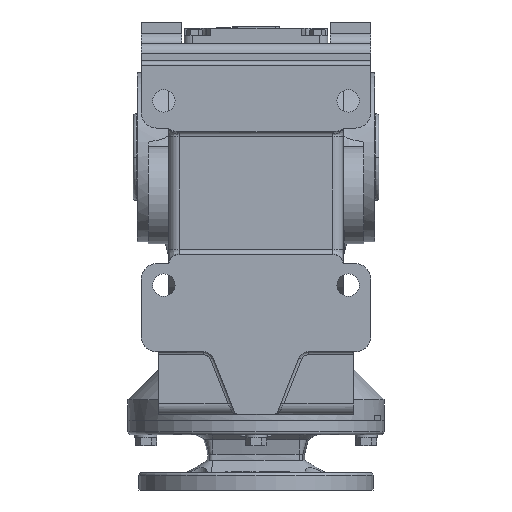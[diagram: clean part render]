
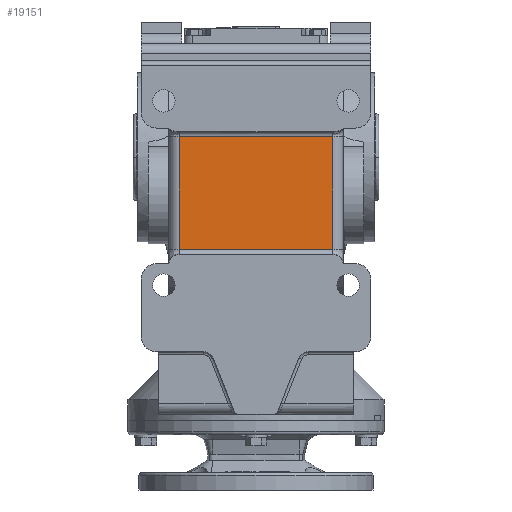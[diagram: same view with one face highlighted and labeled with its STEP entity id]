
A CAD part, front view. The second image highlights one B-rep face of the part: STEP entity #19151.
In plain terms, the highlighted planar face has unit normal (0, -1, 0).
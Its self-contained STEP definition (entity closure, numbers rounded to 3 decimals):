
#942 = AXIS2_PLACEMENT_3D ( 'NONE', #22903, #22841, #22905 ) ;
#2780 = VERTEX_POINT ( 'NONE', #37684 ) ;
#2865 = VERTEX_POINT ( 'NONE', #38413 ) ;
#2904 = VERTEX_POINT ( 'NONE', #39161 ) ;
#2923 = VERTEX_POINT ( 'NONE', #38398 ) ;
#8722 = DIRECTION ( 'NONE',  ( -1., 0., 0. ) ) ;
#8822 = DIRECTION ( 'NONE',  ( 0., 0., -1. ) ) ;
#8835 = CARTESIAN_POINT ( 'NONE',  ( -112., -206., 20. ) ) ;
#8838 = CARTESIAN_POINT ( 'NONE',  ( -112., -206., -90. ) ) ;
#8879 = CARTESIAN_POINT ( 'NONE',  ( -75., -206., 100. ) ) ;
#8891 = CARTESIAN_POINT ( 'NONE',  ( 75., -206., 100. ) ) ;
#8906 = DIRECTION ( 'NONE',  ( 1., 0., 0. ) ) ;
#8913 = DIRECTION ( 'NONE',  ( 0., 0., 1. ) ) ;
#19151 = ADVANCED_FACE ( 'NONE', ( #32933 ), #22845, .T. ) ;
#22841 = DIRECTION ( 'NONE',  ( 0., -1., 0. ) ) ;
#22845 = PLANE ( 'NONE',  #942 ) ;
#22903 = CARTESIAN_POINT ( 'NONE',  ( -112., -206., 20. ) ) ;
#22905 = DIRECTION ( 'NONE',  ( 0., 0., -1. ) ) ;
#24643 = EDGE_CURVE ( 'NONE', #2865, #2904, #33197, .T. ) ;
#24644 = EDGE_CURVE ( 'NONE', #2865, #2923, #33204, .T. ) ;
#24646 = EDGE_CURVE ( 'NONE', #2780, #2923, #33216, .T. ) ;
#24649 = EDGE_CURVE ( 'NONE', #2780, #2904, #33224, .T. ) ;
#32933 = FACE_OUTER_BOUND ( 'NONE', #33910, .T. ) ;
#33197 = LINE ( 'NONE', #8838, #33210 ) ;
#33204 = LINE ( 'NONE', #8879, #33214 ) ;
#33210 = VECTOR ( 'NONE', #8906, 1000. ) ;
#33214 = VECTOR ( 'NONE', #8913, 1000. ) ;
#33216 = LINE ( 'NONE', #8835, #33220 ) ;
#33220 = VECTOR ( 'NONE', #8722, 1000. ) ;
#33224 = LINE ( 'NONE', #8891, #33228 ) ;
#33228 = VECTOR ( 'NONE', #8822, 1000. ) ;
#33910 = EDGE_LOOP ( 'NONE', ( #40029, #39989, #39744, #39805 ) ) ;
#37684 = CARTESIAN_POINT ( 'NONE',  ( 75., -206., 20. ) ) ;
#38398 = CARTESIAN_POINT ( 'NONE',  ( -75., -206., 20. ) ) ;
#38413 = CARTESIAN_POINT ( 'NONE',  ( -75., -206., -90. ) ) ;
#39161 = CARTESIAN_POINT ( 'NONE',  ( 75., -206., -90. ) ) ;
#39744 = ORIENTED_EDGE ( 'NONE', *, *, #24643, .T. ) ;
#39805 = ORIENTED_EDGE ( 'NONE', *, *, #24649, .F. ) ;
#39989 = ORIENTED_EDGE ( 'NONE', *, *, #24644, .F. ) ;
#40029 = ORIENTED_EDGE ( 'NONE', *, *, #24646, .T. ) ;
